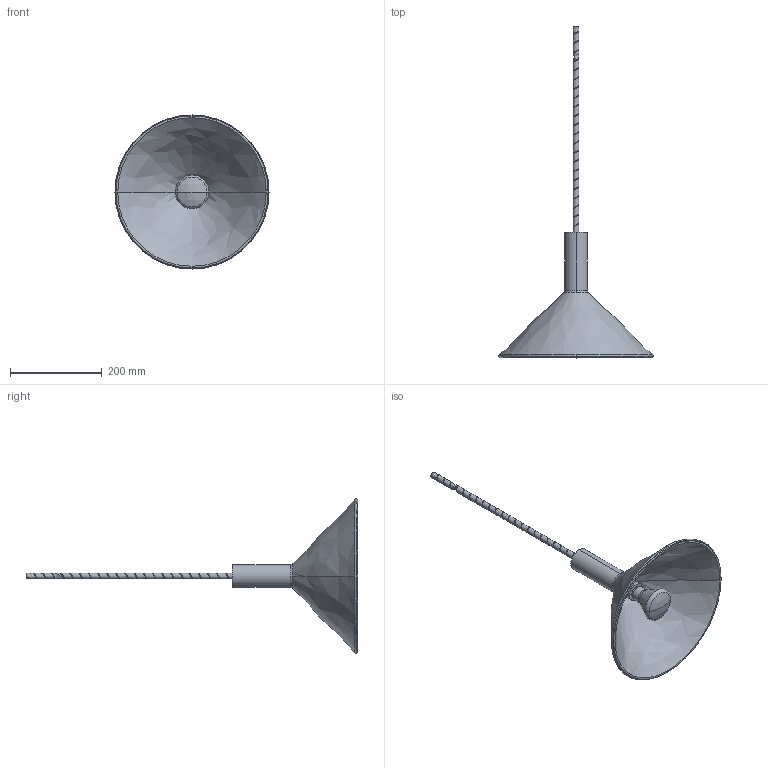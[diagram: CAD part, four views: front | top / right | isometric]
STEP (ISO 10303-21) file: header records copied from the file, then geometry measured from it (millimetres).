
FILE_DESCRIPTION (( 'STEP AP214' ), '1' );
FILE_NAME ('TRATTEN.STEP', '2024-09-02T10:18:58', ( '' ), ( '' ), 'SwSTEP 2.0', 'SolidWorks 2021', '' );
FILE_SCHEMA (( 'AUTOMOTIVE_DESIGN' ));
Length unit declared in the file: millimetre
Products named in the file (1): TRATTEN
Bounding box: 336.95 x 725.34 x 336.95 mm (x, y, z)
Volume: 1390969.7 mm3; surface area: 328981.5 mm2
Topology: 2 solids, 2 shells, 112 faces, 292 edges, 186 vertices
Faces by surface type: cylinder 69, torus 22, bspline 9, plane 6, cone 4, sphere 2
Entity records: 27970 total; most frequent: CARTESIAN_POINT 24629, ORIENTED_EDGE 584, DIRECTION 449, EDGE_CURVE 292, AXIS2_PLACEMENT_3D 187, VERTEX_POINT 186, EDGE_LOOP 116, ADVANCED_FACE 112
